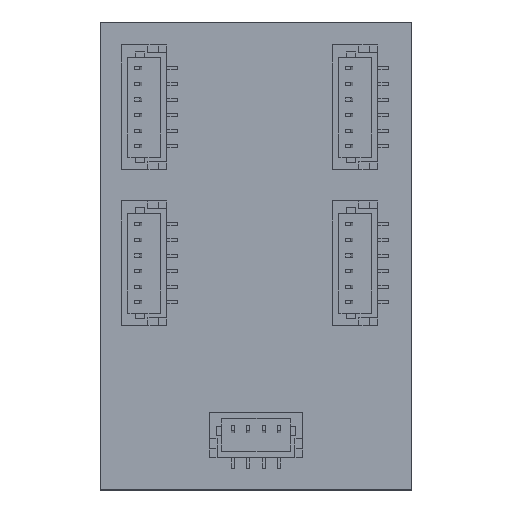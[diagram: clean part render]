
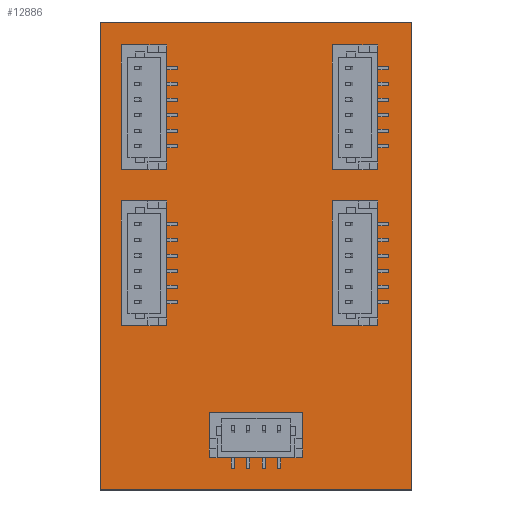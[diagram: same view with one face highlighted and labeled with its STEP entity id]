
A CAD part, top view. The second image highlights one B-rep face of the part: STEP entity #12886.
In plain terms, the highlighted planar face has unit normal (0, 0, 1).
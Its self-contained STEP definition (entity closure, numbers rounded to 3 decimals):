
#12757 = VERTEX_POINT('',#12758);
#12758 = CARTESIAN_POINT('',(20.,-30.,1.11));
#12764 = EDGE_CURVE('',#12757,#12765,#12767,.T.);
#12765 = VERTEX_POINT('',#12766);
#12766 = CARTESIAN_POINT('',(0.,-30.,1.11));
#12767 = LINE('',#12768,#12769);
#12768 = CARTESIAN_POINT('',(20.,-30.,1.11));
#12769 = VECTOR('',#12770,1.);
#12770 = DIRECTION('',(-1.,0.,0.));
#12795 = EDGE_CURVE('',#12765,#12796,#12798,.T.);
#12796 = VERTEX_POINT('',#12797);
#12797 = CARTESIAN_POINT('',(0.,0.,1.11));
#12798 = LINE('',#12799,#12800);
#12799 = CARTESIAN_POINT('',(0.,-30.,1.11));
#12800 = VECTOR('',#12801,1.);
#12801 = DIRECTION('',(0.,1.,0.));
#12826 = EDGE_CURVE('',#12796,#12827,#12829,.T.);
#12827 = VERTEX_POINT('',#12828);
#12828 = CARTESIAN_POINT('',(20.,0.,1.11));
#12829 = LINE('',#12830,#12831);
#12830 = CARTESIAN_POINT('',(0.,0.,1.11));
#12831 = VECTOR('',#12832,1.);
#12832 = DIRECTION('',(1.,0.,0.));
#12857 = EDGE_CURVE('',#12827,#12757,#12858,.T.);
#12858 = LINE('',#12859,#12860);
#12859 = CARTESIAN_POINT('',(20.,0.,1.11));
#12860 = VECTOR('',#12861,1.);
#12861 = DIRECTION('',(0.,-1.,0.));
#12886 = ADVANCED_FACE('',(#12887),#12893,.T.);
#12887 = FACE_BOUND('',#12888,.F.);
#12888 = EDGE_LOOP('',(#12889,#12890,#12891,#12892));
#12889 = ORIENTED_EDGE('',*,*,#12764,.T.);
#12890 = ORIENTED_EDGE('',*,*,#12795,.T.);
#12891 = ORIENTED_EDGE('',*,*,#12826,.T.);
#12892 = ORIENTED_EDGE('',*,*,#12857,.T.);
#12893 = PLANE('',#12894);
#12894 = AXIS2_PLACEMENT_3D('',#12895,#12896,#12897);
#12895 = CARTESIAN_POINT('',(0.,0.,1.11));
#12896 = DIRECTION('',(0.,0.,1.));
#12897 = DIRECTION('',(1.,0.,-0.));
